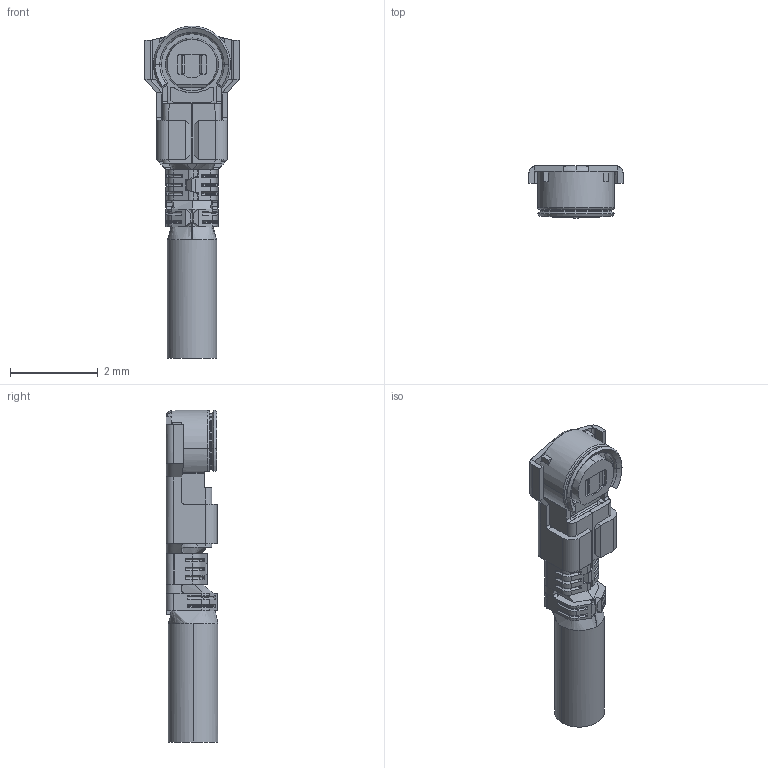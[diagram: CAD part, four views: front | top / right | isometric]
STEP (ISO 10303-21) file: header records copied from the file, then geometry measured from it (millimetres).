
FILE_DESCRIPTION (( 'STEP AP203' ), '1' );
FILE_NAME ('20980-001R-13C PLUG STEP R1 ALL.STEP', '2019-12-09T07:14:24', ( '' ), ( '' ), 'SwSTEP 2.0', 'SolidWorks 2017', '' );
FILE_SCHEMA (( 'CONFIG_CONTROL_DESIGN' ));
Length unit declared in the file: millimetre
Products named in the file (1): 20980-001R-13C PLUG STEP R1 ALL
Bounding box: 2.15 x 1.18 x 7.58 mm (x, y, z)
Volume: 9.4 mm3; surface area: 45.8 mm2
Topology: 1 solids, 7 shells, 489 faces, 1320 edges, 854 vertices
Faces by surface type: plane 287, cylinder 92, bspline 66, torus 22, cone 22
Entity records: 17502 total; most frequent: CARTESIAN_POINT 5478, ORIENTED_EDGE 2640, DIRECTION 2285, EDGE_CURVE 1320, VECTOR 877, LINE 877, VERTEX_POINT 854, AXIS2_PLACEMENT_3D 704
